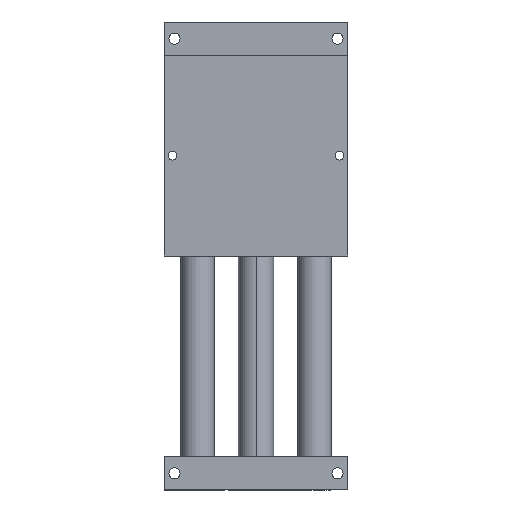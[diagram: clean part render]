
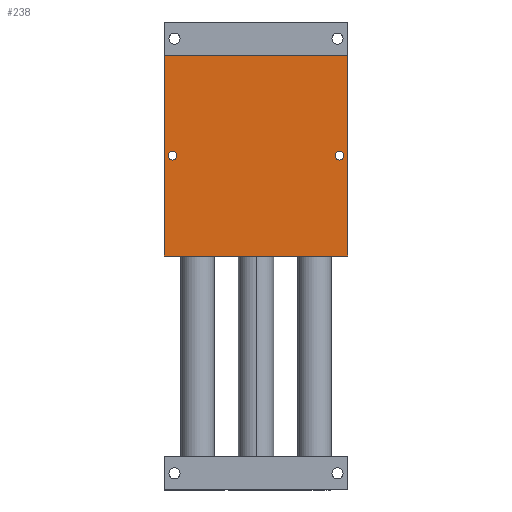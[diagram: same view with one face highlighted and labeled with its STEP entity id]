
A CAD part, front view. The second image highlights one B-rep face of the part: STEP entity #238.
In plain terms, the highlighted planar face has unit normal (0, -1, 0).
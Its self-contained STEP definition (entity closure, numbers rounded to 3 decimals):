
#81 = DIRECTION ( 'NONE',  ( 0., 1., 0. ) ) ;
#93 = CIRCLE ( 'NONE', #753, 3.264 ) ;
#172 = VERTEX_POINT ( 'NONE', #2192 ) ;
#183 = CARTESIAN_POINT ( 'NONE',  ( -63.5, -22.225, 0. ) ) ;
#191 = DIRECTION ( 'NONE',  ( 0., 0., 1. ) ) ;
#238 = ADVANCED_FACE ( 'NONE', ( #906, #1621, #720 ), #1179, .F. ) ;
#254 = EDGE_LOOP ( 'NONE', ( #3699, #389 ) ) ;
#257 = CARTESIAN_POINT ( 'NONE',  ( 63.5, -22.225, 0. ) ) ;
#331 = AXIS2_PLACEMENT_3D ( 'NONE', #1133, #1061, #1029 ) ;
#356 = DIRECTION ( 'NONE',  ( 1., 0., 0. ) ) ;
#389 = ORIENTED_EDGE ( 'NONE', *, *, #2244, .T. ) ;
#403 = CARTESIAN_POINT ( 'NONE',  ( -63.5, -22.225, 3.264 ) ) ;
#478 = DIRECTION ( 'NONE',  ( 0., 0., 1. ) ) ;
#513 = CARTESIAN_POINT ( 'NONE',  ( -69.85, -22.225, 76.2 ) ) ;
#562 = ORIENTED_EDGE ( 'NONE', *, *, #1793, .F. ) ;
#574 = VECTOR ( 'NONE', #2668, 1000. ) ;
#699 = VECTOR ( 'NONE', #1721, 1000. ) ;
#720 = FACE_OUTER_BOUND ( 'NONE', #3605, .T. ) ;
#753 = AXIS2_PLACEMENT_3D ( 'NONE', #1452, #1443, #1415 ) ;
#875 = VERTEX_POINT ( 'NONE', #1358 ) ;
#896 = VERTEX_POINT ( 'NONE', #1239 ) ;
#906 = FACE_BOUND ( 'NONE', #1841, .T. ) ;
#1022 = CARTESIAN_POINT ( 'NONE',  ( 69.85, -22.225, -76.2 ) ) ;
#1029 = DIRECTION ( 'NONE',  ( 0., 0., 1. ) ) ;
#1061 = DIRECTION ( 'NONE',  ( 0., 1., 0. ) ) ;
#1133 = CARTESIAN_POINT ( 'NONE',  ( -69.85, -22.225, 76.2 ) ) ;
#1179 = PLANE ( 'NONE',  #331 ) ;
#1239 = CARTESIAN_POINT ( 'NONE',  ( 63.5, -22.225, -3.264 ) ) ;
#1245 = VERTEX_POINT ( 'NONE', #403 ) ;
#1283 = CARTESIAN_POINT ( 'NONE',  ( 69.85, -22.225, 76.2 ) ) ;
#1309 = VECTOR ( 'NONE', #356, 1000. ) ;
#1358 = CARTESIAN_POINT ( 'NONE',  ( 63.5, -22.225, 3.264 ) ) ;
#1415 = DIRECTION ( 'NONE',  ( 0., 0., 1. ) ) ;
#1443 = DIRECTION ( 'NONE',  ( 0., 1., 0. ) ) ;
#1452 = CARTESIAN_POINT ( 'NONE',  ( -63.5, -22.225, 0. ) ) ;
#1458 = EDGE_CURVE ( 'NONE', #2308, #3747, #3772, .T. ) ;
#1520 = CARTESIAN_POINT ( 'NONE',  ( -69.85, -22.225, 76.2 ) ) ;
#1621 = FACE_BOUND ( 'NONE', #254, .T. ) ;
#1654 = CARTESIAN_POINT ( 'NONE',  ( -69.85, -22.225, -76.2 ) ) ;
#1656 = EDGE_CURVE ( 'NONE', #172, #1245, #93, .T. ) ;
#1721 = DIRECTION ( 'NONE',  ( -1., 0., 0. ) ) ;
#1793 = EDGE_CURVE ( 'NONE', #3747, #1914, #2942, .T. ) ;
#1841 = EDGE_LOOP ( 'NONE', ( #2982, #3397 ) ) ;
#1914 = VERTEX_POINT ( 'NONE', #1283 ) ;
#2002 = DIRECTION ( 'NONE',  ( 0., 1., 0. ) ) ;
#2003 = CARTESIAN_POINT ( 'NONE',  ( -69.85, -22.225, -76.2 ) ) ;
#2076 = EDGE_CURVE ( 'NONE', #1914, #2492, #3594, .T. ) ;
#2192 = CARTESIAN_POINT ( 'NONE',  ( -63.5, -22.225, -3.264 ) ) ;
#2244 = EDGE_CURVE ( 'NONE', #896, #875, #3329, .T. ) ;
#2292 = DIRECTION ( 'NONE',  ( 0., 1., 0. ) ) ;
#2308 = VERTEX_POINT ( 'NONE', #2003 ) ;
#2337 = EDGE_CURVE ( 'NONE', #2492, #2308, #3818, .T. ) ;
#2492 = VERTEX_POINT ( 'NONE', #2728 ) ;
#2495 = ORIENTED_EDGE ( 'NONE', *, *, #1458, .F. ) ;
#2584 = CIRCLE ( 'NONE', #3760, 3.264 ) ;
#2663 = CARTESIAN_POINT ( 'NONE',  ( -69.85, -22.225, -76.2 ) ) ;
#2668 = DIRECTION ( 'NONE',  ( 0., 0., 1. ) ) ;
#2703 = EDGE_CURVE ( 'NONE', #1245, #172, #3315, .T. ) ;
#2728 = CARTESIAN_POINT ( 'NONE',  ( 69.85, -22.225, -76.2 ) ) ;
#2732 = EDGE_CURVE ( 'NONE', #875, #896, #2584, .T. ) ;
#2767 = ORIENTED_EDGE ( 'NONE', *, *, #2337, .F. ) ;
#2791 = VECTOR ( 'NONE', #2924, 1000. ) ;
#2841 = ORIENTED_EDGE ( 'NONE', *, *, #2076, .F. ) ;
#2924 = DIRECTION ( 'NONE',  ( 0., 0., -1. ) ) ;
#2942 = LINE ( 'NONE', #513, #1309 ) ;
#2982 = ORIENTED_EDGE ( 'NONE', *, *, #2703, .T. ) ;
#3315 = CIRCLE ( 'NONE', #3378, 3.264 ) ;
#3329 = CIRCLE ( 'NONE', #3519, 3.264 ) ;
#3378 = AXIS2_PLACEMENT_3D ( 'NONE', #183, #2292, #478 ) ;
#3397 = ORIENTED_EDGE ( 'NONE', *, *, #1656, .T. ) ;
#3519 = AXIS2_PLACEMENT_3D ( 'NONE', #257, #81, #3867 ) ;
#3594 = LINE ( 'NONE', #1022, #2791 ) ;
#3605 = EDGE_LOOP ( 'NONE', ( #2495, #2767, #2841, #562 ) ) ;
#3699 = ORIENTED_EDGE ( 'NONE', *, *, #2732, .T. ) ;
#3747 = VERTEX_POINT ( 'NONE', #1520 ) ;
#3760 = AXIS2_PLACEMENT_3D ( 'NONE', #3787, #2002, #191 ) ;
#3772 = LINE ( 'NONE', #2663, #574 ) ;
#3787 = CARTESIAN_POINT ( 'NONE',  ( 63.5, -22.225, 0. ) ) ;
#3818 = LINE ( 'NONE', #1654, #699 ) ;
#3867 = DIRECTION ( 'NONE',  ( 0., 0., 1. ) ) ;
